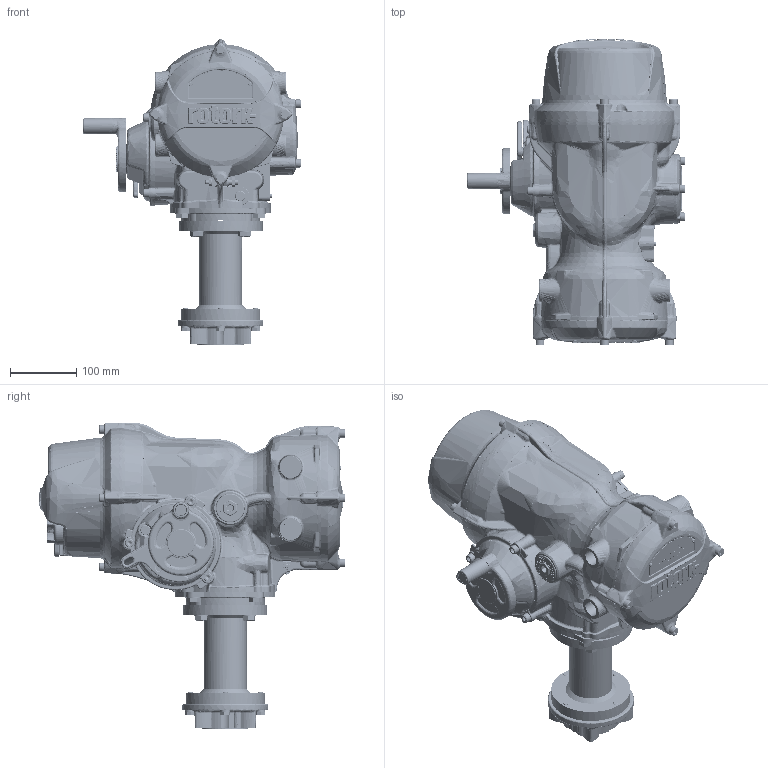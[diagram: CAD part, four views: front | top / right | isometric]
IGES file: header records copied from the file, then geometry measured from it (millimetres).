
Start section: C
Global section: file name: IQT3 Size 1 F10A.igs; native system: By Siemens PLM Incorporated; preprocessor: XPlus GENERIC/IGES 20.0.26; author: Author; organization: Title; date: 20181128.094845; units: millimetre
Bounding box: 329.5 x 463.55 x 464.8 mm (x, y, z)
Surface area: 698374.5 mm2 (no closed solid volume)
Topology: 0 solids, 0 shells, 12073 faces, 68848 edges, 68178 vertices
Faces by surface type: bspline 12073
